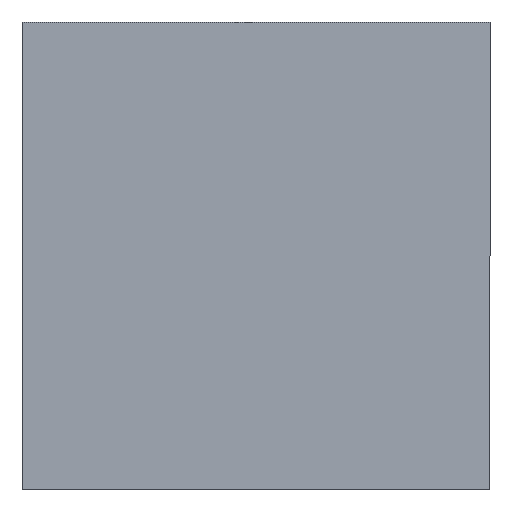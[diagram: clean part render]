
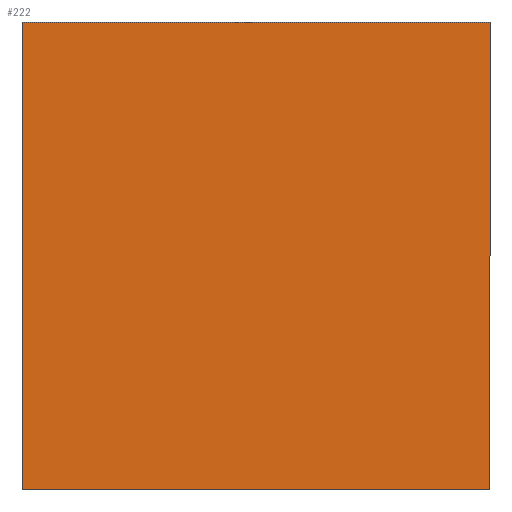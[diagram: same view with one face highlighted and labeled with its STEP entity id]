
A CAD part, front view. The second image highlights one B-rep face of the part: STEP entity #222.
In plain terms, the highlighted planar face has unit normal (0, -1, 0).
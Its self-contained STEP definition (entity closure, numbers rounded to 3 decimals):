
#8 = EDGE_LOOP ( 'NONE', ( #76, #140, #276, #59 ) ) ;
#25 = FACE_OUTER_BOUND ( 'NONE', #8, .T. ) ;
#33 = VERTEX_POINT ( 'NONE', #37 ) ;
#37 = CARTESIAN_POINT ( 'NONE',  ( 145., 0., 0. ) ) ;
#40 = LINE ( 'NONE', #117, #171 ) ;
#46 = DIRECTION ( 'NONE',  ( -1., 0., 0. ) ) ;
#59 = ORIENTED_EDGE ( 'NONE', *, *, #185, .F. ) ;
#63 = CARTESIAN_POINT ( 'NONE',  ( 145., 0., -290. ) ) ;
#71 = CARTESIAN_POINT ( 'NONE',  ( -145., 0., -290. ) ) ;
#76 = ORIENTED_EDGE ( 'NONE', *, *, #104, .F. ) ;
#80 = VERTEX_POINT ( 'NONE', #63 ) ;
#85 = AXIS2_PLACEMENT_3D ( 'NONE', #278, #151, #277 ) ;
#104 = EDGE_CURVE ( 'NONE', #159, #270, #241, .T. ) ;
#117 = CARTESIAN_POINT ( 'NONE',  ( 145., 0., -290. ) ) ;
#119 = VECTOR ( 'NONE', #46, 1000. ) ;
#120 = PLANE ( 'NONE',  #85 ) ;
#125 = VECTOR ( 'NONE', #206, 1000. ) ;
#133 = EDGE_CURVE ( 'NONE', #33, #80, #40, .T. ) ;
#140 = ORIENTED_EDGE ( 'NONE', *, *, #181, .F. ) ;
#141 = DIRECTION ( 'NONE',  ( 1., 0., 0. ) ) ;
#151 = DIRECTION ( 'NONE',  ( 0., 1., 0. ) ) ;
#159 = VERTEX_POINT ( 'NONE', #71 ) ;
#163 = CARTESIAN_POINT ( 'NONE',  ( -145., 0., -290. ) ) ;
#171 = VECTOR ( 'NONE', #212, 1000. ) ;
#181 = EDGE_CURVE ( 'NONE', #80, #159, #217, .T. ) ;
#185 = EDGE_CURVE ( 'NONE', #270, #33, #214, .T. ) ;
#191 = CARTESIAN_POINT ( 'NONE',  ( -145., 0., 0. ) ) ;
#206 = DIRECTION ( 'NONE',  ( 0., 0., 1. ) ) ;
#212 = DIRECTION ( 'NONE',  ( 0., 0., -1. ) ) ;
#214 = LINE ( 'NONE', #228, #257 ) ;
#217 = LINE ( 'NONE', #248, #119 ) ;
#222 = ADVANCED_FACE ( 'NONE', ( #25 ), #120, .F. ) ;
#228 = CARTESIAN_POINT ( 'NONE',  ( -145., 0., 0. ) ) ;
#241 = LINE ( 'NONE', #163, #125 ) ;
#248 = CARTESIAN_POINT ( 'NONE',  ( -145., 0., -290. ) ) ;
#257 = VECTOR ( 'NONE', #141, 1000. ) ;
#270 = VERTEX_POINT ( 'NONE', #191 ) ;
#276 = ORIENTED_EDGE ( 'NONE', *, *, #133, .F. ) ;
#277 = DIRECTION ( 'NONE',  ( 0., 0., 1. ) ) ;
#278 = CARTESIAN_POINT ( 'NONE',  ( 0., 0., 0. ) ) ;
